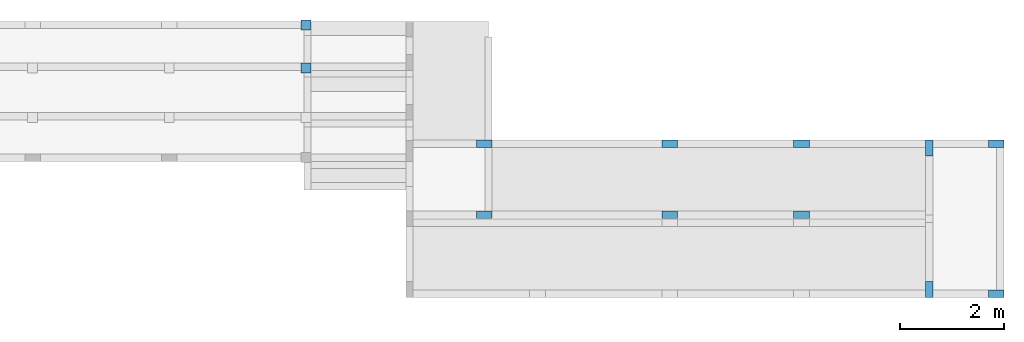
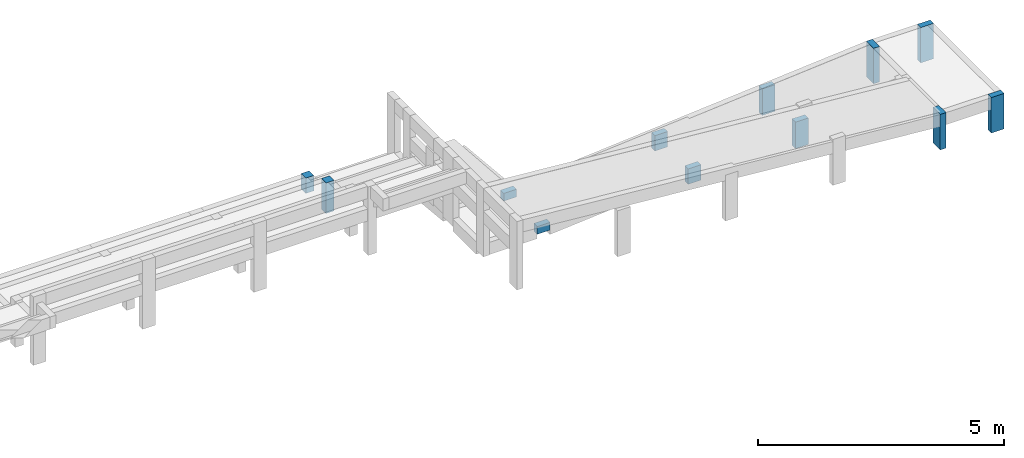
# One storey, part 3 of 9: 12 columns.
"""IFC4 building model written with IfcOpenShell, lengths in centimetres."""

import ifcopenshell
import ifcopenshell.guid

model = None  # the IFC model being written
_history = None  # IfcOwnerHistory: only IFC2X3 demands one
_inside = {}  # id of a spatial element -> (the spatial element, [elements in it])
_under = {}  # id of a project, library or spatial element -> (it, [spatial elements below it])
_declared = {}  # id of a project -> (the project, [libraries it declares])
_typed = {}  # id of a type object -> (the type object, [elements of that type])
_made_of = {}  # id of a material, layer set ... -> (it, [elements and type objects made of it])


def new_model(schema):
    """Start an empty IFC model of exactly this schema.

    Asked for "IFC4X3", IfcOpenShell would pick the latest addendum, in which some entities
    have other attributes; the version numbers below select the first issue.
    IFC2X3 requires an IfcOwnerHistory on every rooted entity: one is made here for all.
    """
    global model, _history
    if schema == "IFC4X3":
        model = ifcopenshell.file(schema_version=(4, 3, 0, 0))
    else:
        model = ifcopenshell.file(schema=schema)
    _inside.clear()
    _under.clear()
    _declared.clear()
    _typed.clear()
    _made_of.clear()
    _history = None
    if model.schema == "IFC2X3":
        org = make("IfcOrganization", Name="unknown")
        user = make(
            "IfcPersonAndOrganization",
            ThePerson=make("IfcPerson", FamilyName="unknown"),
            TheOrganization=org,
        )
        app = make(
            "IfcApplication",
            ApplicationDeveloper=org,
            Version="unknown",
            ApplicationFullName="unknown",
            ApplicationIdentifier="unknown",
        )
        _history = make(
            "IfcOwnerHistory",
            OwningUser=user,
            OwningApplication=app,
            ChangeAction="ADDED",
            CreationDate=0,
        )
    return model


def make(cls, **values):
    """One entity of the class cls with the attributes given. An attribute that is None is left unset."""
    return model.create_entity(
        cls, **{name: value for name, value in values.items() if value is not None}
    )


def rooted(cls, **values):
    """An entity with a GlobalId (a new one), such as an element, a storey or a relation."""
    return make(cls, GlobalId=ifcopenshell.guid.new(), OwnerHistory=_history, **values)


def si_unit(unit_type, name, prefix=None):
    """IfcSIUnit, for example si_unit("LENGTHUNIT", "METRE", prefix="MILLI")."""
    return make("IfcSIUnit", UnitType=unit_type, Prefix=prefix, Name=name)


def derived_unit(unit_type, elements):
    """IfcDerivedUnit: a product of units, each with its exponent."""
    return make(
        "IfcDerivedUnit",
        Elements=[
            make("IfcDerivedUnitElement", Unit=unit, Exponent=power)
            for unit, power in elements
        ],
        UnitType=unit_type,
    )


def assignment(units):
    """IfcUnitAssignment: the units of a project."""
    return None if units is None else make("IfcUnitAssignment", Units=units)


def point(xyz):
    """IfcCartesianPoint."""
    return None if xyz is None else make("IfcCartesianPoint", Coordinates=xyz)


def direction(xyz):
    """IfcDirection."""
    return None if xyz is None else make("IfcDirection", DirectionRatios=xyz)


def frame(location, z_axis=None, x_axis=None):
    """IfcAxis2Placement3D, a coordinate frame: its origin and axes. An axis left out is left unset."""
    return make(
        "IfcAxis2Placement3D",
        Location=point(location),
        Axis=direction(z_axis),
        RefDirection=direction(x_axis),
    )


def frame_2d(location, x_axis=None):
    """IfcAxis2Placement2D, a coordinate frame in the plane: its origin and x axis."""
    return make(
        "IfcAxis2Placement2D", Location=point(location), RefDirection=direction(x_axis)
    )


def origin_with_axes():
    """The frame at (0, 0, 0) with the z axis (0, 0, 1) and the x axis (1, 0, 0) written out."""
    return frame((0.0, 0.0, 0.0), z_axis=(0.0, 0.0, 1.0), x_axis=(1.0, 0.0, 0.0))


def origin_2d_with_axis():
    """The frame at (0, 0) in the plane with the x axis (1, 0) written out."""
    return frame_2d((0.0, 0.0), x_axis=(1.0, 0.0))


def place(relative_to, where):
    """IfcLocalPlacement: puts the frame where relative to a parent placement (None: the world)."""
    return make(
        "IfcLocalPlacement", PlacementRelTo=relative_to, RelativePlacement=where
    )


def context(
    kind, dimensions, precision=None, world=None, true_north=None, identifier=None
):
    """IfcGeometricRepresentationContext, for example the 3D "Model" context."""
    return make(
        "IfcGeometricRepresentationContext",
        ContextIdentifier=identifier,
        ContextType=kind,
        CoordinateSpaceDimension=dimensions,
        Precision=precision,
        WorldCoordinateSystem=world,
        TrueNorth=true_north,
    )


def project(units=None, contexts=None):
    """IfcProject with its units and contexts."""
    return rooted(
        "IfcProject",
        Name="project",
        RepresentationContexts=contexts,
        UnitsInContext=assignment(units),
    )


def spatial(cls, under=None, at=None, **own):
    """A site, building, storey or space (cls), placed at a placement, below another one or the project."""
    s = rooted(cls, ObjectPlacement=at, **own)
    if under is not None:
        _under.setdefault(under.id(), (under, []))[1].append(s)
    return s


def profile(cls, at=None, kind="AREA", **sizes):
    """A parametric profile (cls). Its sizes go by their IFC names, for example OverallWidth=200.0."""
    return make(cls, ProfileType=kind, Position=at, **sizes)


def rectangle(**sizes):
    """IfcRectangleProfileDef."""
    return profile("IfcRectangleProfileDef", **sizes)


def extrude(swept, where, along, depth):
    """IfcExtrudedAreaSolid: the profile swept, set in the frame where, extruded along a direction by depth."""
    return make(
        "IfcExtrudedAreaSolid",
        SweptArea=swept,
        Position=where,
        ExtrudedDirection=direction(along),
        Depth=depth,
    )


def shape(context_of_items, identifier, shape_type, items):
    """IfcShapeRepresentation: the items that make up one representation, for example the "Body"."""
    return make(
        "IfcShapeRepresentation",
        ContextOfItems=context_of_items,
        RepresentationIdentifier=identifier,
        RepresentationType=shape_type,
        Items=items,
    )


def material(Name=None, Category=None):
    """IfcMaterial."""
    return make("IfcMaterial", Name=Name, Category=Category)


def made_of(thing, what):
    """Note that an element or type object is made of a material, layer set ...; save() writes the relation."""
    if what is not None:
        _made_of.setdefault(what.id(), (what, []))[1].append(thing)
    return thing


def element(
    cls,
    number,
    at=None,
    inside=None,
    cuts=None,
    type_object=None,
    material=None,
    context=None,
    identifier="Body",
    shape_type=None,
    held_by="IfcProductDefinitionShape",
    body=None,
    shapes=None,
    **own,
):
    """One element of the class cls, such as IfcWall. Its Tag is "e" and its number.

    at: its placement. inside: the storey or other place that contains it. cuts: it is an
    opening in that element (IfcRelVoidsElement). A single representation is given by context,
    identifier, shape_type and body (its items); several are given by shapes. held_by: the class
    of the entity that holds the representations. save() writes the other relations.
    """
    e = rooted(cls, Tag="e%d" % number, ObjectPlacement=at, **own)
    if body is not None:
        shapes = [shape(context, identifier, shape_type, body)]
    if shapes is not None:
        e.Representation = make(held_by, Representations=shapes)
    if inside is not None:
        _inside.setdefault(inside.id(), (inside, []))[1].append(e)
    if cuts is not None:
        rooted(
            "IfcRelVoidsElement", RelatingBuildingElement=cuts, RelatedOpeningElement=e
        )
    if type_object is not None:
        _typed.setdefault(type_object.id(), (type_object, []))[1].append(e)
    return made_of(e, material)


def aggregate(whole, parts):
    """IfcRelAggregates: a whole, such as a stair, and the parts it consists of."""
    return rooted("IfcRelAggregates", RelatingObject=whole, RelatedObjects=parts)


def save(model, path):
    """Write the relations noted so far, then the file.

    IfcRelAggregates (storeys below a building ...), IfcRelContainedInSpatialStructure (elements
    in a storey), IfcRelDefinesByType, IfcRelAssociatesMaterial and IfcRelDeclares: one each for
    every whole, place, type object, material and project.
    """
    for whole, parts in _under.values():
        aggregate(whole, parts)
    for where, things in _inside.values():
        rooted(
            "IfcRelContainedInSpatialStructure",
            RelatedElements=things,
            RelatingStructure=where,
        )
    for kind, things in _typed.values():
        rooted("IfcRelDefinesByType", RelatedObjects=things, RelatingType=kind)
    for what, things in _made_of.values():
        rooted("IfcRelAssociatesMaterial", RelatedObjects=things, RelatingMaterial=what)
    for by, libraries in _declared.values():
        rooted("IfcRelDeclares", RelatingContext=by, RelatedDefinitions=libraries)
    model.write(path)


model = new_model("IFC4")

# Units and contexts
model_context = context("Model", 3, precision=1e-05, world=origin_with_axes(), identifier="Body")
ifc_project = project(units=[si_unit("LENGTHUNIT", "METRE", prefix="CENTI"), si_unit("VOLUMEUNIT", "CUBIC_METRE"), si_unit("AREAUNIT", "SQUARE_METRE"), si_unit("POWERUNIT", "WATT"), si_unit("LUMINOUSFLUXUNIT", "LUMEN"), si_unit("ELECTRICCURRENTUNIT", "AMPERE"), si_unit("PRESSUREUNIT", "PASCAL", prefix="KILO"), si_unit("MASSUNIT", "GRAM", prefix="KILO"), si_unit("PLANEANGLEUNIT", "RADIAN"), derived_unit("VOLUMETRICFLOWRATEUNIT", [(si_unit("LENGTHUNIT", "METRE"), 3), (si_unit("TIMEUNIT", "SECOND"), -1)])], contexts=[model_context])

# Site, building, storey
site_placement = place(None, origin_with_axes())
site = spatial("IfcSite", under=ifc_project, at=site_placement)
building_placement = place(site_placement, frame((0.0, 0.0, -170.0)))
building = spatial("IfcBuilding", under=site, at=building_placement)
placement = place(building_placement, origin_with_axes())
storey_placement = place(placement, frame((0.0, 0.0, 170.0), z_axis=(0.0, 0.0, 1.0), x_axis=(1.0, 0.0, 0.0)))
storey = spatial("IfcBuildingStorey", under=building, at=storey_placement, Name="Arquibancada", CompositionType="ELEMENT", Elevation=0.0)

# Columns
ifc_material = material(Name="Concreto")
column_1_placement = place(storey_placement, frame((5815.12, -121.5, -82.0), z_axis=(0.0, 0.0, 1.0), x_axis=(1.0, 0.0, 0.0)))
element("IfcColumn", 1, at=column_1_placement, inside=storey, material=ifc_material, Name="P104", context=model_context, shape_type="SolidModel", body=[
    extrude(rectangle(XDim=14.0, YDim=30.0, at=origin_2d_with_axis()), frame((0.0, 0.0, 0.0), z_axis=(0.0, 0.0, 1.0), x_axis=(-1.0, 0.0, 0.0)), (0.0, 0.0, -1.0), 88.0),
])
column_2_placement = place(storey_placement, frame((5943.12, -129.5, -82.0), z_axis=(0.0, 0.0, 1.0), x_axis=(1.0, 0.0, 0.0)))
element("IfcColumn", 2, at=column_2_placement, inside=storey, material=ifc_material, Name="P105", context=model_context, shape_type="SolidModel", body=[
    extrude(rectangle(XDim=14.0, YDim=30.0, at=origin_2d_with_axis()), frame((0.0, 0.0, 0.0), z_axis=(0.0, 0.0, 1.0), x_axis=(0.0, -1.0, 0.0)), (0.0, 0.0, -1.0), 88.0),
])
column_3_placement = place(storey_placement, frame((4622.12, 385.0, -132.0), z_axis=(0.0, 0.0, 1.0), x_axis=(1.0, 0.0, 0.0)))
element("IfcColumn", 3, at=column_3_placement, inside=storey, material=ifc_material, Name="P21", context=model_context, shape_type="SolidModel", body=[
    extrude(rectangle(XDim=19.0, YDim=19.0, at=origin_2d_with_axis()), frame((0.0, 0.0, 0.0), z_axis=(0.0, 0.0, 1.0), x_axis=(0.0, -1.0, 0.0)), (0.0, 0.0, -1.0), 38.0),
])
column_4_placement = place(storey_placement, frame((4622.12, 302.5, -94.0), z_axis=(0.0, 0.0, 1.0), x_axis=(1.0, 0.0, 0.0)))
element("IfcColumn", 4, at=column_4_placement, inside=storey, material=ifc_material, Name="P37", context=model_context, shape_type="SolidModel", body=[
    extrude(rectangle(XDim=19.0, YDim=19.0, at=origin_2d_with_axis()), frame((0.0, 0.0, 0.0), z_axis=(0.0, 0.0, 1.0), x_axis=(0.0, -1.0, 0.0)), (0.0, 0.0, -1.0), 76.0),
])
column_5_placement = place(storey_placement, frame((4963.12, 157.5, -151.0), z_axis=(0.0, 0.0, 1.0), x_axis=(1.0, 0.0, 0.0)))
element("IfcColumn", 5, at=column_5_placement, inside=storey, material=ifc_material, Name="P73", context=model_context, shape_type="SolidModel", body=[
    extrude(rectangle(XDim=14.0, YDim=30.0, at=origin_2d_with_axis()), frame((0.0, 0.0, 0.0), z_axis=(0.0, 0.0, 1.0), x_axis=(0.0, -1.0, 0.0)), (0.0, 0.0, -1.0), 19.0),
])
column_6_placement = place(storey_placement, frame((5318.12, 157.5, -132.0), z_axis=(0.0, 0.0, 1.0), x_axis=(1.0, 0.0, 0.0)))
element("IfcColumn", 6, at=column_6_placement, inside=storey, material=ifc_material, Name="P74", context=model_context, shape_type="SolidModel", body=[
    extrude(rectangle(XDim=14.0, YDim=30.0, at=origin_2d_with_axis()), frame((0.0, 0.0, 0.0), z_axis=(0.0, 0.0, 1.0), x_axis=(0.0, -1.0, 0.0)), (0.0, 0.0, -1.0), 38.0),
])
column_7_placement = place(storey_placement, frame((5570.62, 157.5, -104.0), z_axis=(0.0, 0.0, 1.0), x_axis=(1.0, 0.0, 0.0)))
element("IfcColumn", 7, at=column_7_placement, inside=storey, material=ifc_material, Name="P75", context=model_context, shape_type="SolidModel", body=[
    extrude(rectangle(XDim=14.0, YDim=30.0, at=origin_2d_with_axis()), frame((0.0, 0.0, 0.0), z_axis=(0.0, 0.0, 1.0), x_axis=(0.0, -1.0, 0.0)), (0.0, 0.0, -1.0), 66.0),
])
column_8_placement = place(storey_placement, frame((5815.12, 149.5, -82.0), z_axis=(0.0, 0.0, 1.0), x_axis=(1.0, 0.0, 0.0)))
element("IfcColumn", 8, at=column_8_placement, inside=storey, material=ifc_material, Name="P76", context=model_context, shape_type="SolidModel", body=[
    extrude(rectangle(XDim=14.0, YDim=30.0, at=origin_2d_with_axis()), origin_with_axes(), (0.0, 0.0, -1.0), 88.0),
])
column_9_placement = place(storey_placement, frame((5943.12, 157.5, -82.0), z_axis=(0.0, 0.0, 1.0), x_axis=(1.0, 0.0, 0.0)))
element("IfcColumn", 9, at=column_9_placement, inside=storey, material=ifc_material, Name="P77", context=model_context, shape_type="SolidModel", body=[
    extrude(rectangle(XDim=14.0, YDim=30.0, at=origin_2d_with_axis()), frame((0.0, 0.0, 0.0), z_axis=(0.0, 0.0, 1.0), x_axis=(0.0, -1.0, 0.0)), (0.0, 0.0, -1.0), 88.0),
])
column_10_placement = place(storey_placement, frame((4963.12, 21.5, -151.0), z_axis=(0.0, 0.0, 1.0), x_axis=(1.0, 0.0, 0.0)))
element("IfcColumn", 10, at=column_10_placement, inside=storey, material=ifc_material, Name="P88", context=model_context, shape_type="SolidModel", body=[
    extrude(rectangle(XDim=14.0, YDim=30.0, at=origin_2d_with_axis()), frame((0.0, 0.0, 0.0), z_axis=(0.0, 0.0, 1.0), x_axis=(0.0, -1.0, 0.0)), (0.0, 0.0, -1.0), 19.0),
])
column_11_placement = place(storey_placement, frame((5318.12, 21.5, -132.0), z_axis=(0.0, 0.0, 1.0), x_axis=(1.0, 0.0, 0.0)))
element("IfcColumn", 11, at=column_11_placement, inside=storey, material=ifc_material, Name="P89", context=model_context, shape_type="SolidModel", body=[
    extrude(rectangle(XDim=14.0, YDim=30.0, at=origin_2d_with_axis()), frame((0.0, 0.0, 0.0), z_axis=(0.0, 0.0, 1.0), x_axis=(0.0, -1.0, 0.0)), (0.0, 0.0, -1.0), 38.0),
])
column_12_placement = place(storey_placement, frame((5570.62, 21.5, -104.0), z_axis=(0.0, 0.0, 1.0), x_axis=(1.0, 0.0, 0.0)))
element("IfcColumn", 12, at=column_12_placement, inside=storey, material=ifc_material, Name="P91", context=model_context, shape_type="SolidModel", body=[
    extrude(rectangle(XDim=14.0, YDim=30.0, at=origin_2d_with_axis()), frame((0.0, 0.0, 0.0), z_axis=(0.0, 0.0, 1.0), x_axis=(0.0, -1.0, 0.0)), (0.0, 0.0, -1.0), 66.0),
])

save(model, "model.ifc")
